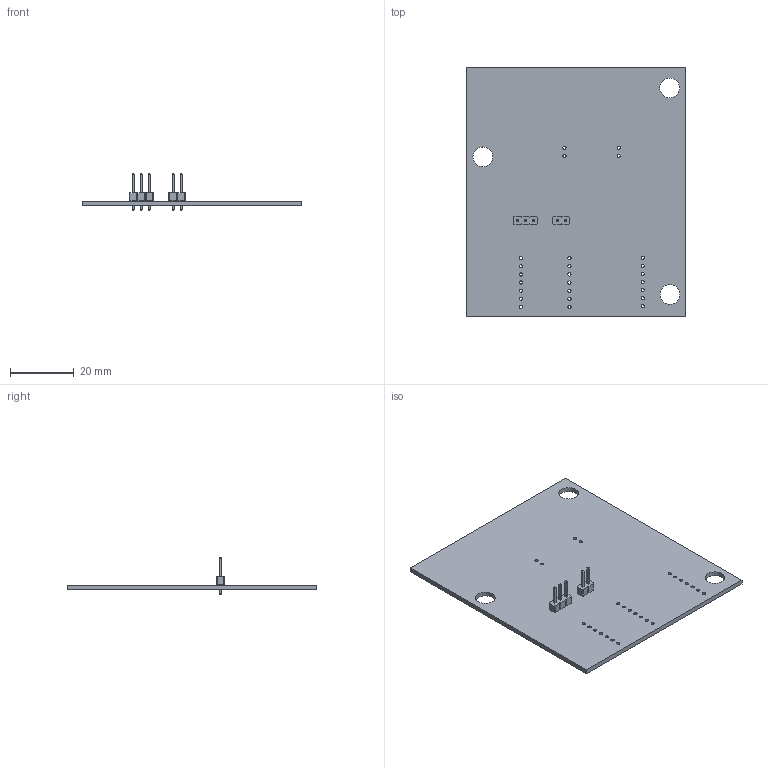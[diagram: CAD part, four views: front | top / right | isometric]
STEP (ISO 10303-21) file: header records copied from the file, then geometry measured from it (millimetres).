
FILE_DESCRIPTION(('KiCad electronic assembly'),'2;1');
FILE_NAME('Untitled.step','2025-12-13T03:54:48',('Pcbnew'),('Kicad'), 'Open CASCADE STEP processor 7.8','KiCad to STEP converter','Unknown' );
FILE_SCHEMA(('AUTOMOTIVE_DESIGN { 1 0 10303 214 1 1 1 1 }'));
Length unit declared in the file: millimetre
Products named in the file (4): Untitled 1; PinHeader_1x02_P2.54mm_Vertical; PinHeader_1x03_P2.54mm_Vertical; Cuckoov3_PCB
Assembly tree (3 placements, depth 2):
  Untitled 1
    PinHeader_1x02_P2.54mm_Vertical
    PinHeader_1x03_P2.54mm_Vertical
    Cuckoov3_PCB
Bounding box: 68.8 x 78.2 x 11.54 mm (x, y, z)
Volume: 8050.2 mm3; surface area: 11472.6 mm2
Topology: 3 solids, 3 shells, 167 faces, 413 edges, 262 vertices
Faces by surface type: plane 134, cylinder 33
Full cylindrical faces by diameter (mm): 1 x30, 6.2 x3
Entity records: 5954 total; most frequent: CARTESIAN_POINT 846, ORIENTED_EDGE 826, DIRECTION 821, EDGE_CURVE 413, LINE 347, VECTOR 347, VERTEX_POINT 262, FACE_BOUND 243
